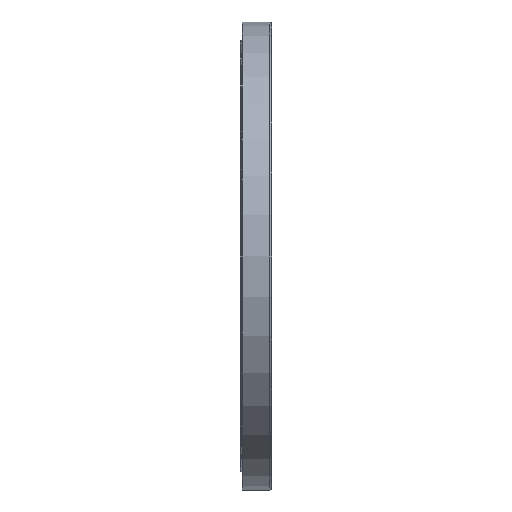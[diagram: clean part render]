
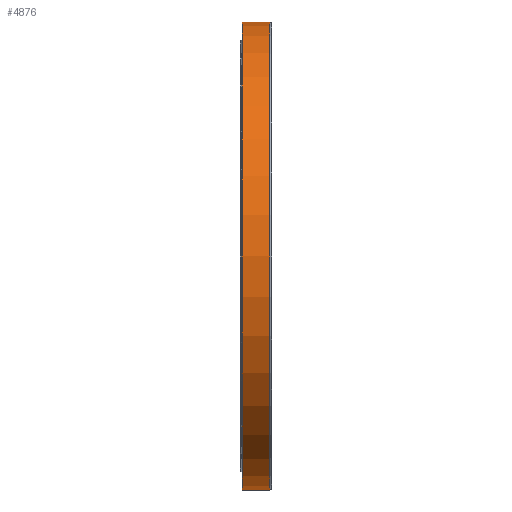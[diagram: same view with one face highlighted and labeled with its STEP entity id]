
A CAD part, left-side view. The second image highlights one B-rep face of the part: STEP entity #4876.
In plain terms, the highlighted cylindrical face has radius 984 mm (diameter 1968 mm), a partial arc.
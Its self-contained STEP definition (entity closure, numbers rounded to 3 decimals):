
#474 = AXIS2_PLACEMENT_3D ( 'NONE', #24619, #21627, #21989 ) ;
#518 = ORIENTED_EDGE ( 'NONE', *, *, #25462, .T. ) ;
#798 = VERTEX_POINT ( 'NONE', #7831 ) ;
#2905 = LINE ( 'NONE', #22498, #5586 ) ;
#3175 = CIRCLE ( 'NONE', #24664, 984. ) ;
#4876 = ADVANCED_FACE ( 'NONE', ( #17300 ), #32053, .T. ) ;
#5586 = VECTOR ( 'NONE', #34428, 1000. ) ;
#6484 = DIRECTION ( 'NONE',  ( 0., 0., -1. ) ) ;
#7831 = CARTESIAN_POINT ( 'NONE',  ( 0., -127.171, 984. ) ) ;
#11423 = ORIENTED_EDGE ( 'NONE', *, *, #34777, .F. ) ;
#11754 = CARTESIAN_POINT ( 'NONE',  ( 0., -127.171, -984. ) ) ;
#12088 = EDGE_CURVE ( 'NONE', #16758, #21246, #15049, .T. ) ;
#12660 = ORIENTED_EDGE ( 'NONE', *, *, #32959, .F. ) ;
#15049 = LINE ( 'NONE', #23079, #24253 ) ;
#16758 = VERTEX_POINT ( 'NONE', #26350 ) ;
#17300 = FACE_OUTER_BOUND ( 'NONE', #24230, .T. ) ;
#17577 = VERTEX_POINT ( 'NONE', #25149 ) ;
#18046 = CARTESIAN_POINT ( 'NONE',  ( 0., 0., 0. ) ) ;
#20830 = DIRECTION ( 'NONE',  ( 0., -1., 0. ) ) ;
#21246 = VERTEX_POINT ( 'NONE', #11754 ) ;
#21627 = DIRECTION ( 'NONE',  ( 0., -1., 0. ) ) ;
#21989 = DIRECTION ( 'NONE',  ( 0., 0., -1. ) ) ;
#22498 = CARTESIAN_POINT ( 'NONE',  ( 0., 0., 984. ) ) ;
#23079 = CARTESIAN_POINT ( 'NONE',  ( 0., 0., -984. ) ) ;
#23341 = AXIS2_PLACEMENT_3D ( 'NONE', #18046, #27021, #6484 ) ;
#24230 = EDGE_LOOP ( 'NONE', ( #11423, #518, #30363, #12660 ) ) ;
#24253 = VECTOR ( 'NONE', #20830, 1000. ) ;
#24345 = CIRCLE ( 'NONE', #474, 984. ) ;
#24619 = CARTESIAN_POINT ( 'NONE',  ( 0., -127.171, 0. ) ) ;
#24664 = AXIS2_PLACEMENT_3D ( 'NONE', #29001, #26569, #27132 ) ;
#25149 = CARTESIAN_POINT ( 'NONE',  ( 0., -13.171, 984. ) ) ;
#25462 = EDGE_CURVE ( 'NONE', #17577, #16758, #3175, .T. ) ;
#26350 = CARTESIAN_POINT ( 'NONE',  ( 0., -13.171, -984. ) ) ;
#26569 = DIRECTION ( 'NONE',  ( 0., -1., 0. ) ) ;
#27021 = DIRECTION ( 'NONE',  ( 0., -1., 0. ) ) ;
#27132 = DIRECTION ( 'NONE',  ( 0., 0., -1. ) ) ;
#29001 = CARTESIAN_POINT ( 'NONE',  ( 0., -13.171, 0. ) ) ;
#30363 = ORIENTED_EDGE ( 'NONE', *, *, #12088, .T. ) ;
#32053 = CYLINDRICAL_SURFACE ( 'NONE', #23341, 984. ) ;
#32959 = EDGE_CURVE ( 'NONE', #798, #21246, #24345, .T. ) ;
#34428 = DIRECTION ( 'NONE',  ( 0., -1., 0. ) ) ;
#34777 = EDGE_CURVE ( 'NONE', #17577, #798, #2905, .T. ) ;
